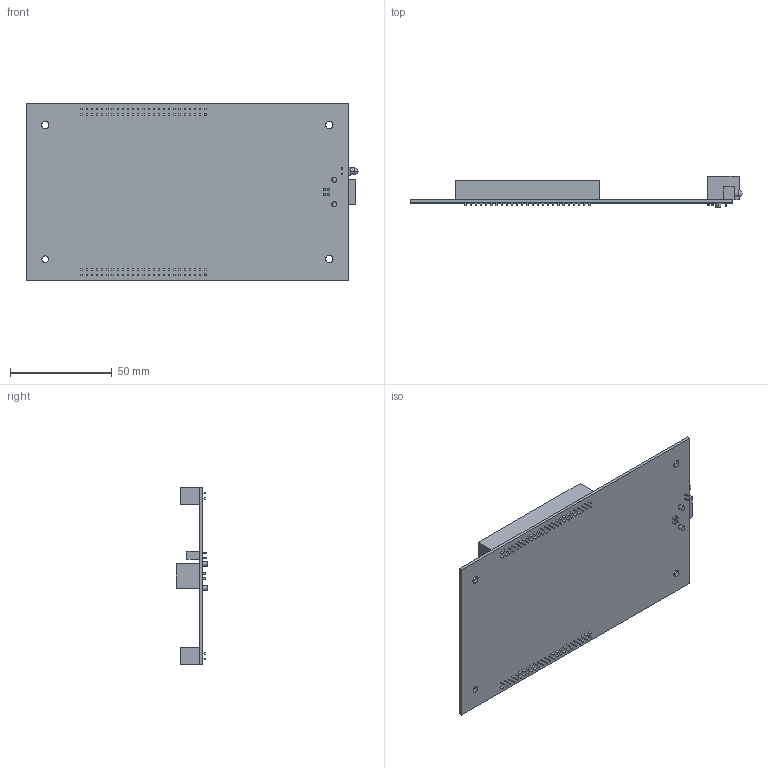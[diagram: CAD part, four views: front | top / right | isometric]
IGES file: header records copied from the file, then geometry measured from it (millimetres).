
Start section:  PTC IGES file: cu_usb_oem_6216.igs
Global section: file name: cu_usb_oem_6216.igs; native system: Pro/ENGINEER by Parametric Technology Corporation; preprocessor: 2010230; author: dkendric; organization: Unknown; date: 20110815.114327; units: inch
Bounding box: 163.35 x 15.42 x 87.43 mm (x, y, z)
Surface area: 36776.3 mm2 (no closed solid volume)
Topology: 0 solids, 0 shells, 1140 faces, 5518 edges, 5516 vertices
Faces by surface type: bspline 1088, revolution 52
